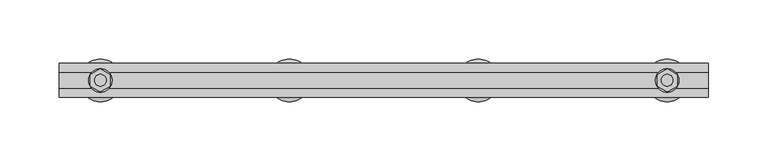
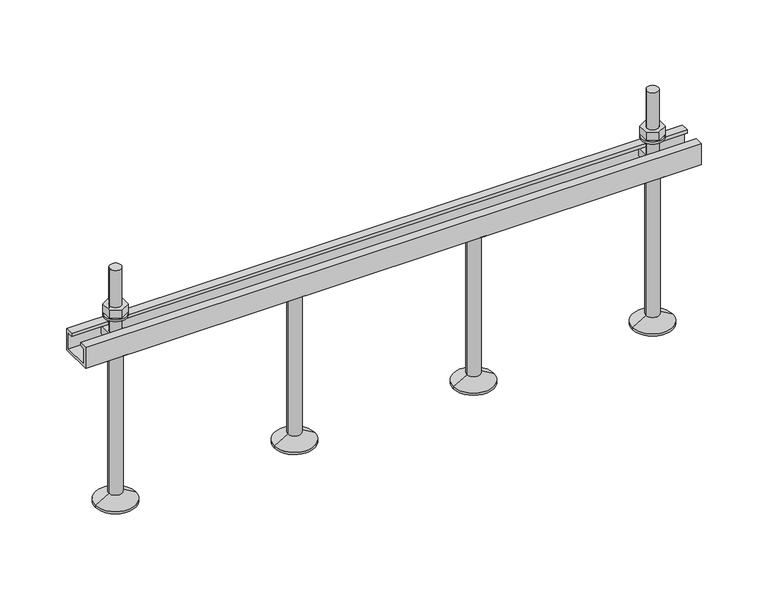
"""IFC4 building model written with IfcOpenShell, lengths in millimetres: fastener geometry, JXA(-PC) JORDAHL® toothed channels : JXA(-PC) L=550 mm."""

from ifc_helpers import new_model, si_unit, point, frame, frame_2d, origin, place, context, project, spatial, polyline, circle_curve, trimmed, segment, composite_curve, outline, extrude, source, transform, mapped, element, save
from ifc_brep_helpers import plane_surface, cylinder_surface, revolved_surface, advanced_brep


def fastener_5d54877c(model_context):
    return source(origin(), model_context, "Body", "SolidModel", [
        advanced_brep(
        [(355.0, 0.0, -20.0), (369.5, 0.0, -20.0), (340.5, 0.0, -20.0), (337.0, 0.0, -166.0), (373.0, 0.0, -166.0), (355.0, 0.0, -166.0), (337.0, 0.0, -164.0), (373.0, 0.0, -164.0), (349.0, 0.0, -157.0717968), (361.0, 0.0, -157.0717968), (349.0, 0.0, -22.5), (361.0, 0.0, -22.5)],
        [
            (0, 1),
            (1, 2, circle_curve(frame((355.0, 0.0, -20.0), z_axis=(0.0, 0.0, 1.0), x_axis=(1.0, 0.0, 0.0)), 14.5)),
            (2, 0),
            (2, 1, circle_curve(frame((355.0, 0.0, -20.0), z_axis=(0.0, 0.0, 1.0), x_axis=(1.0, 0.0, 0.0)), 14.5)),
            (3, 4, circle_curve(frame((355.0, 0.0, -166.0), z_axis=(0.0, 0.0, -1.0), x_axis=(1.0, 0.0, 0.0)), 18.0)),
            (4, 5),
            (5, 3),
            (4, 3, circle_curve(frame((355.0, 0.0, -166.0), z_axis=(0.0, 0.0, -1.0), x_axis=(1.0, 0.0, 0.0)), 18.0)),
            (6, 7, circle_curve(frame((355.0, 0.0, -164.0), z_axis=(0.0, 0.0, -1.0), x_axis=(1.0, 0.0, 0.0)), 18.0)),
            (7, 4),
            (3, 6),
            (7, 6, circle_curve(frame((355.0, 0.0, -164.0), z_axis=(0.0, 0.0, -1.0), x_axis=(1.0, 0.0, 0.0)), 18.0)),
            (8, 9, circle_curve(frame((355.0, 0.0, -157.0717968), z_axis=(0.0, 0.0, -1.0), x_axis=(1.0, 0.0, 0.0)), 6.0)),
            (9, 7),
            (6, 8),
            (9, 8, circle_curve(frame((355.0, 0.0, -157.0717968), z_axis=(0.0, 0.0, -1.0), x_axis=(1.0, 0.0, 0.0)), 6.0)),
            (10, 11, circle_curve(frame((355.0, 0.0, -22.5), z_axis=(0.0, 0.0, -1.0), x_axis=(1.0, 0.0, 0.0)), 6.0)),
            (11, 9),
            (8, 10),
            (11, 10, circle_curve(frame((355.0, 0.0, -22.5), z_axis=(0.0, 0.0, -1.0), x_axis=(1.0, 0.0, 0.0)), 6.0)),
            (1, 11),
            (10, 2),
        ],
        [
            plane_surface(frame((355.0, 0.0, -20.0), z_axis=(0.0, 0.0, 1.0), x_axis=(1.0, 0.0, 0.0))),
            plane_surface(frame((355.0, 0.0, -166.0), z_axis=(0.0, 0.0, -1.0), x_axis=(1.0, 0.0, 0.0))),
            cylinder_surface(frame((355.0, 0.0, 2214.3150031), z_axis=(0.0, 0.0, 1.0), x_axis=(1.0, 0.0, 0.0)), 18.0),
            revolved_surface(polyline([(373.0, 0.0, -164.0), (361.0, 0.0, -157.0717968)]), (355.0, 0.0, 2214.3150031), (0.0, 0.0, 1.0)),
            cylinder_surface(frame((355.0, 0.0, 2214.3150031), z_axis=(0.0, 0.0, 1.0), x_axis=(1.0, 0.0, 0.0)), 6.0),
            revolved_surface(polyline([(361.0, 0.0, -22.5), (369.5, 0.0, -20.0)]), (355.0, 0.0, 2214.3150031), (0.0, 0.0, 1.0)),
        ],
        [
            (0, [[1, 2, 3]]),
            (0, [[-3, 4, -1]]),
            (1, [[5, 6, 7]]),
            (1, [[8, -7, -6]]),
            (2, [[9, 10, -5, 11]]),
            (2, [[12, -11, -8, -10]]),
            (3, [[13, 14, -9, 15]]),
            (3, [[16, -15, -12, -14]]),
            (4, [[17, 18, -13, 19]]),
            (4, [[20, -19, -16, -18]]),
            (5, [[-2, 21, -17, 22]]),
            (5, [[-4, -22, -20, -21]]),
        ],
    ),
        advanced_brep(
        [(195.0, 0.0, -20.0), (209.5, 0.0, -20.0), (180.5, 0.0, -20.0), (177.0, 0.0, -166.0), (213.0, 0.0, -166.0), (195.0, 0.0, -166.0), (177.0, 0.0, -164.0), (213.0, 0.0, -164.0), (189.0, 0.0, -157.0717968), (201.0, 0.0, -157.0717968), (189.0, 0.0, -22.5), (201.0, 0.0, -22.5)],
        [
            (0, 1),
            (1, 2, circle_curve(frame((195.0, 0.0, -20.0), z_axis=(0.0, 0.0, 1.0), x_axis=(1.0, 0.0, 0.0)), 14.5)),
            (2, 0),
            (2, 1, circle_curve(frame((195.0, 0.0, -20.0), z_axis=(0.0, 0.0, 1.0), x_axis=(1.0, 0.0, 0.0)), 14.5)),
            (3, 4, circle_curve(frame((195.0, 0.0, -166.0), z_axis=(0.0, 0.0, -1.0), x_axis=(1.0, 0.0, 0.0)), 18.0)),
            (4, 5),
            (5, 3),
            (4, 3, circle_curve(frame((195.0, 0.0, -166.0), z_axis=(0.0, 0.0, -1.0), x_axis=(1.0, 0.0, 0.0)), 18.0)),
            (6, 7, circle_curve(frame((195.0, 0.0, -164.0), z_axis=(0.0, 0.0, -1.0), x_axis=(1.0, 0.0, 0.0)), 18.0)),
            (7, 4),
            (3, 6),
            (7, 6, circle_curve(frame((195.0, 0.0, -164.0), z_axis=(0.0, 0.0, -1.0), x_axis=(1.0, 0.0, 0.0)), 18.0)),
            (8, 9, circle_curve(frame((195.0, 0.0, -157.0717968), z_axis=(0.0, 0.0, -1.0), x_axis=(1.0, 0.0, 0.0)), 6.0)),
            (9, 7),
            (6, 8),
            (9, 8, circle_curve(frame((195.0, 0.0, -157.0717968), z_axis=(0.0, 0.0, -1.0), x_axis=(1.0, 0.0, 0.0)), 6.0)),
            (10, 11, circle_curve(frame((195.0, 0.0, -22.5), z_axis=(0.0, 0.0, -1.0), x_axis=(1.0, 0.0, 0.0)), 6.0)),
            (11, 9),
            (8, 10),
            (11, 10, circle_curve(frame((195.0, 0.0, -22.5), z_axis=(0.0, 0.0, -1.0), x_axis=(1.0, 0.0, 0.0)), 6.0)),
            (1, 11),
            (10, 2),
        ],
        [
            plane_surface(frame((195.0, 0.0, -20.0), z_axis=(0.0, 0.0, 1.0), x_axis=(1.0, 0.0, 0.0))),
            plane_surface(frame((195.0, 0.0, -166.0), z_axis=(0.0, 0.0, -1.0), x_axis=(1.0, 0.0, 0.0))),
            cylinder_surface(frame((195.0, 0.0, 2214.3150031), z_axis=(0.0, 0.0, 1.0), x_axis=(1.0, 0.0, 0.0)), 18.0),
            revolved_surface(polyline([(213.0, 0.0, -164.0), (201.0, 0.0, -157.0717968)]), (195.0, 0.0, 2214.3150031), (0.0, 0.0, 1.0)),
            cylinder_surface(frame((195.0, 0.0, 2214.3150031), z_axis=(0.0, 0.0, 1.0), x_axis=(1.0, 0.0, 0.0)), 6.0),
            revolved_surface(polyline([(201.0, 0.0, -22.5), (209.5, 0.0, -20.0)]), (195.0, 0.0, 2214.3150031), (0.0, 0.0, 1.0)),
        ],
        [
            (0, [[1, 2, 3]]),
            (0, [[-3, 4, -1]]),
            (1, [[5, 6, 7]]),
            (1, [[8, -7, -6]]),
            (2, [[9, 10, -5, 11]]),
            (2, [[12, -11, -8, -10]]),
            (3, [[13, 14, -9, 15]]),
            (3, [[16, -15, -12, -14]]),
            (4, [[17, 18, -13, 19]]),
            (4, [[20, -19, -16, -18]]),
            (5, [[-2, 21, -17, 22]]),
            (5, [[-4, -22, -20, -21]]),
        ],
    ),
        extrude(outline(composite_curve([segment(trimmed(circle_curve(frame_2d((515.0, 0.0)), 10.0), [point((505.0, 0.0))], [point((525.0, 0.0))], False, "CARTESIAN"), True, "CONTINUOUS"), segment(trimmed(circle_curve(frame_2d((515.0, 0.0)), 10.0), [point((525.0, 0.0))], [point((505.0, 0.0))], False, "CARTESIAN"), True, "CONTINUOUS")], self_intersect=False), holes=[composite_curve([segment(trimmed(circle_curve(frame_2d((515.0, 0.0)), 5.5), [point((509.5, 0.0))], [point((520.5, 0.0))], True, "CARTESIAN"), True, "CONTINUOUS"), segment(trimmed(circle_curve(frame_2d((515.0, 0.0)), 5.5), [point((520.5, 0.0))], [point((509.5, 0.0))], True, "CARTESIAN"), True, "CONTINUOUS")], self_intersect=False)]), frame((0.0, 0.0, 10.0), z_axis=(0.0, 0.0, 1.0), x_axis=(1.0, 0.0, 0.0)), (0.0, 0.0, 1.0), 2.0),
        extrude(outline(polyline([(515.0, 9.8149546), (523.5, 4.9074773), (523.5, -4.9074773), (515.0, -9.8149546), (506.5, -4.9074773), (506.5, 4.9074773), (515.0, 9.8149546)]), holes=[composite_curve([segment(trimmed(circle_curve(frame_2d((515.0, 0.0)), 5.0), [point((510.0, 0.0))], [point((520.0, 0.0))], True, "CARTESIAN"), True, "CONTINUOUS"), segment(trimmed(circle_curve(frame_2d((515.0, 0.0)), 5.0), [point((520.0, 0.0))], [point((510.0, 0.0))], True, "CARTESIAN"), True, "CONTINUOUS")], self_intersect=False)]), frame((0.0, 0.0, 12.0), z_axis=(0.0, 0.0, 1.0), x_axis=(1.0, 0.0, 0.0)), (0.0, 0.0, 1.0), 8.0),
        advanced_brep(
        [(521.5, 10.5, -5.0), (521.5, -10.5, -5.0), (521.5, -10.5, -12.0), (521.5, 10.5, -12.0), (508.5, 10.5, -5.0), (508.5, 10.5, -12.0), (508.5, -10.5, -12.0), (508.5, -10.5, -5.0), (520.0, 0.0, -5.0), (510.0, 0.0, -5.0), (510.0, 0.0, 55.0), (520.0, 0.0, 55.0)],
        [
            (0, 1),
            (1, 2),
            (2, 3),
            (3, 0),
            (4, 5),
            (5, 6),
            (6, 7),
            (7, 4),
            (0, 4),
            (7, 1),
            (8, 9, circle_curve(frame((515.0, 0.0, -5.0), z_axis=(0.0, 0.0, -1.0), x_axis=(1.0, 0.0, 0.0)), 5.0)),
            (9, 8, circle_curve(frame((515.0, 0.0, -5.0), z_axis=(0.0, 0.0, -1.0), x_axis=(1.0, 0.0, 0.0)), 5.0)),
            (6, 2),
            (5, 3),
            (10, 11, circle_curve(frame((515.0, 0.0, 55.0), z_axis=(0.0, 0.0, 1.0), x_axis=(1.0, 0.0, 0.0)), 5.0)),
            (11, 10, circle_curve(frame((515.0, 0.0, 55.0), z_axis=(0.0, 0.0, 1.0), x_axis=(1.0, 0.0, 0.0)), 5.0)),
            (10, 9),
            (8, 11),
        ],
        [
            plane_surface(frame((521.5, -10.5, -5.0), z_axis=(1.0, 0.0, 0.0), x_axis=(0.0, -1.0, 0.0))),
            plane_surface(frame((508.5, -10.5, -5.0), z_axis=(-1.0, 0.0, 0.0), x_axis=(0.0, 1.0, 0.0))),
            plane_surface(frame((521.5, 10.5, -5.0), z_axis=(0.0, 0.0, 1.0), x_axis=(-1.0, 0.0, 0.0))),
            plane_surface(frame((521.5, -10.5, -5.0), z_axis=(0.0, -1.0, 0.0), x_axis=(-1.0, 0.0, 0.0))),
            plane_surface(frame((521.5, -10.5, -12.0), z_axis=(0.0, 0.0, -1.0), x_axis=(-1.0, 0.0, 0.0))),
            plane_surface(frame((521.5, 10.5, -12.0), z_axis=(0.0, 1.0, 0.0), x_axis=(-1.0, 0.0, 0.0))),
            plane_surface(frame((520.0, 0.0, 55.0), z_axis=(0.0, 0.0, 1.0), x_axis=(0.0, 1.0, 0.0))),
            cylinder_surface(frame((515.0, 0.0, -5.0), z_axis=(0.0, 0.0, 1.0), x_axis=(1.0, 0.0, 0.0)), 5.0),
        ],
        [
            (0, [[1, 2, 3, 4]]),
            (1, [[5, 6, 7, 8]]),
            (2, [[-1, 9, -8, 10], [11, 12]]),
            (3, [[-2, -10, -7, 13]]),
            (4, [[-3, -13, -6, 14]]),
            (5, [[-4, -14, -5, -9]]),
            (6, [[15, 16]]),
            (7, [[-15, 17, -11, 18]]),
            (7, [[-16, -18, -12, -17]]),
        ],
    ),
        extrude(outline(composite_curve([segment(trimmed(circle_curve(frame_2d((35.0, 0.0)), 10.0), [point((25.0, 0.0))], [point((45.0, 0.0))], False, "CARTESIAN"), True, "CONTINUOUS"), segment(trimmed(circle_curve(frame_2d((35.0, 0.0)), 10.0), [point((45.0, 0.0))], [point((25.0, 0.0))], False, "CARTESIAN"), True, "CONTINUOUS")], self_intersect=False), holes=[composite_curve([segment(trimmed(circle_curve(frame_2d((35.0, 0.0)), 5.5), [point((29.5, 0.0))], [point((40.5, 0.0))], True, "CARTESIAN"), True, "CONTINUOUS"), segment(trimmed(circle_curve(frame_2d((35.0, 0.0)), 5.5), [point((40.5, 0.0))], [point((29.5, 0.0))], True, "CARTESIAN"), True, "CONTINUOUS")], self_intersect=False)]), frame((0.0, 0.0, 10.0), z_axis=(0.0, 0.0, 1.0), x_axis=(1.0, 0.0, 0.0)), (0.0, 0.0, 1.0), 2.0),
        extrude(outline(polyline([(35.0, 9.8149546), (43.5, 4.9074773), (43.5, -4.9074773), (35.0, -9.8149546), (26.5, -4.9074773), (26.5, 4.9074773), (35.0, 9.8149546)]), holes=[composite_curve([segment(trimmed(circle_curve(frame_2d((35.0, 0.0)), 5.0), [point((30.0, 0.0))], [point((40.0, 0.0))], True, "CARTESIAN"), True, "CONTINUOUS"), segment(trimmed(circle_curve(frame_2d((35.0, 0.0)), 5.0), [point((40.0, 0.0))], [point((30.0, 0.0))], True, "CARTESIAN"), True, "CONTINUOUS")], self_intersect=False)]), frame((0.0, 0.0, 12.0), z_axis=(0.0, 0.0, 1.0), x_axis=(1.0, 0.0, 0.0)), (0.0, 0.0, 1.0), 8.0),
        advanced_brep(
        [(41.5, 10.5, -5.0), (41.5, -10.5, -5.0), (41.5, -10.5, -12.0), (41.5, 10.5, -12.0), (28.5, 10.5, -5.0), (28.5, 10.5, -12.0), (28.5, -10.5, -12.0), (28.5, -10.5, -5.0), (40.0, 0.0, -5.0), (30.0, 0.0, -5.0), (30.0, 0.0, 55.0), (40.0, 0.0, 55.0)],
        [
            (0, 1),
            (1, 2),
            (2, 3),
            (3, 0),
            (4, 5),
            (5, 6),
            (6, 7),
            (7, 4),
            (0, 4),
            (7, 1),
            (8, 9, circle_curve(frame((35.0, 0.0, -5.0), z_axis=(0.0, 0.0, -1.0), x_axis=(1.0, 0.0, 0.0)), 5.0)),
            (9, 8, circle_curve(frame((35.0, 0.0, -5.0), z_axis=(0.0, 0.0, -1.0), x_axis=(1.0, 0.0, 0.0)), 5.0)),
            (6, 2),
            (5, 3),
            (10, 11, circle_curve(frame((35.0, 0.0, 55.0), z_axis=(0.0, 0.0, 1.0), x_axis=(1.0, 0.0, 0.0)), 5.0)),
            (11, 10, circle_curve(frame((35.0, 0.0, 55.0), z_axis=(0.0, 0.0, 1.0), x_axis=(1.0, 0.0, 0.0)), 5.0)),
            (10, 9),
            (8, 11),
        ],
        [
            plane_surface(frame((41.5, -10.5, -5.0), z_axis=(1.0, 0.0, 0.0), x_axis=(0.0, -1.0, 0.0))),
            plane_surface(frame((28.5, -10.5, -5.0), z_axis=(-1.0, 0.0, 0.0), x_axis=(0.0, 1.0, 0.0))),
            plane_surface(frame((41.5, 10.5, -5.0), z_axis=(0.0, 0.0, 1.0), x_axis=(-1.0, 0.0, 0.0))),
            plane_surface(frame((41.5, -10.5, -5.0), z_axis=(0.0, -1.0, 0.0), x_axis=(-1.0, 0.0, 0.0))),
            plane_surface(frame((41.5, -10.5, -12.0), z_axis=(0.0, 0.0, -1.0), x_axis=(-1.0, 0.0, 0.0))),
            plane_surface(frame((41.5, 10.5, -12.0), z_axis=(0.0, 1.0, 0.0), x_axis=(-1.0, 0.0, 0.0))),
            plane_surface(frame((40.0, 0.0, 55.0), z_axis=(0.0, 0.0, 1.0), x_axis=(0.0, 1.0, 0.0))),
            cylinder_surface(frame((35.0, 0.0, -5.0), z_axis=(0.0, 0.0, 1.0), x_axis=(1.0, 0.0, 0.0)), 5.0),
        ],
        [
            (0, [[1, 2, 3, 4]]),
            (1, [[5, 6, 7, 8]]),
            (2, [[-1, 9, -8, 10], [11, 12]]),
            (3, [[-2, -10, -7, 13]]),
            (4, [[-3, -13, -6, 14]]),
            (5, [[-4, -14, -5, -9]]),
            (6, [[15, 16]]),
            (7, [[-15, 17, -11, 18]]),
            (7, [[-16, -18, -12, -17]]),
        ],
    ),
        advanced_brep(
        [(515.0, 0.0, -20.0), (529.5, 0.0, -20.0), (500.5, 0.0, -20.0), (497.0, 0.0, -166.0), (533.0, 0.0, -166.0), (515.0, 0.0, -166.0), (497.0, 0.0, -164.0), (533.0, 0.0, -164.0), (509.0, 0.0, -157.0717968), (521.0, 0.0, -157.0717968), (509.0, 0.0, -22.5), (521.0, 0.0, -22.5)],
        [
            (0, 1),
            (1, 2, circle_curve(frame((515.0, 0.0, -20.0), z_axis=(0.0, 0.0, 1.0), x_axis=(1.0, 0.0, 0.0)), 14.5)),
            (2, 0),
            (2, 1, circle_curve(frame((515.0, 0.0, -20.0), z_axis=(0.0, 0.0, 1.0), x_axis=(1.0, 0.0, 0.0)), 14.5)),
            (3, 4, circle_curve(frame((515.0, 0.0, -166.0), z_axis=(0.0, 0.0, -1.0), x_axis=(1.0, 0.0, 0.0)), 18.0)),
            (4, 5),
            (5, 3),
            (4, 3, circle_curve(frame((515.0, 0.0, -166.0), z_axis=(0.0, 0.0, -1.0), x_axis=(1.0, 0.0, 0.0)), 18.0)),
            (6, 7, circle_curve(frame((515.0, 0.0, -164.0), z_axis=(0.0, 0.0, -1.0), x_axis=(1.0, 0.0, 0.0)), 18.0)),
            (7, 4),
            (3, 6),
            (7, 6, circle_curve(frame((515.0, 0.0, -164.0), z_axis=(0.0, 0.0, -1.0), x_axis=(1.0, 0.0, 0.0)), 18.0)),
            (8, 9, circle_curve(frame((515.0, 0.0, -157.0717968), z_axis=(0.0, 0.0, -1.0), x_axis=(1.0, 0.0, 0.0)), 6.0)),
            (9, 7),
            (6, 8),
            (9, 8, circle_curve(frame((515.0, 0.0, -157.0717968), z_axis=(0.0, 0.0, -1.0), x_axis=(1.0, 0.0, 0.0)), 6.0)),
            (10, 11, circle_curve(frame((515.0, 0.0, -22.5), z_axis=(0.0, 0.0, -1.0), x_axis=(1.0, 0.0, 0.0)), 6.0)),
            (11, 9),
            (8, 10),
            (11, 10, circle_curve(frame((515.0, 0.0, -22.5), z_axis=(0.0, 0.0, -1.0), x_axis=(1.0, 0.0, 0.0)), 6.0)),
            (1, 11),
            (10, 2),
        ],
        [
            plane_surface(frame((515.0, 0.0, -20.0), z_axis=(0.0, 0.0, 1.0), x_axis=(1.0, 0.0, 0.0))),
            plane_surface(frame((515.0, 0.0, -166.0), z_axis=(0.0, 0.0, -1.0), x_axis=(1.0, 0.0, 0.0))),
            cylinder_surface(frame((515.0, 0.0, 2214.3150031), z_axis=(0.0, 0.0, 1.0), x_axis=(1.0, 0.0, 0.0)), 18.0),
            revolved_surface(polyline([(533.0, 0.0, -164.0), (521.0, 0.0, -157.0717968)]), (515.0, 0.0, 2214.3150031), (0.0, 0.0, 1.0)),
            cylinder_surface(frame((515.0, 0.0, 2214.3150031), z_axis=(0.0, 0.0, 1.0), x_axis=(1.0, 0.0, 0.0)), 6.0),
            revolved_surface(polyline([(521.0, 0.0, -22.5), (529.5, 0.0, -20.0)]), (515.0, 0.0, 2214.3150031), (0.0, 0.0, 1.0)),
        ],
        [
            (0, [[1, 2, 3]]),
            (0, [[-3, 4, -1]]),
            (1, [[5, 6, 7]]),
            (1, [[8, -7, -6]]),
            (2, [[9, 10, -5, 11]]),
            (2, [[12, -11, -8, -10]]),
            (3, [[13, 14, -9, 15]]),
            (3, [[16, -15, -12, -14]]),
            (4, [[17, 18, -13, 19]]),
            (4, [[20, -19, -16, -18]]),
            (5, [[-2, 21, -17, 22]]),
            (5, [[-4, -22, -20, -21]]),
        ],
    ),
        advanced_brep(
        [(35.0, 0.0, -20.0), (49.5, 0.0, -20.0), (20.5, 0.0, -20.0), (17.0, 0.0, -166.0), (53.0, 0.0, -166.0), (35.0, 0.0, -166.0), (17.0, 0.0, -164.0), (53.0, 0.0, -164.0), (29.0, 0.0, -157.0717968), (41.0, 0.0, -157.0717968), (29.0, 0.0, -22.5), (41.0, 0.0, -22.5)],
        [
            (0, 1),
            (1, 2, circle_curve(frame((35.0, 0.0, -20.0), z_axis=(0.0, 0.0, 1.0), x_axis=(1.0, 0.0, 0.0)), 14.5)),
            (2, 0),
            (2, 1, circle_curve(frame((35.0, 0.0, -20.0), z_axis=(0.0, 0.0, 1.0), x_axis=(1.0, 0.0, 0.0)), 14.5)),
            (3, 4, circle_curve(frame((35.0, 0.0, -166.0), z_axis=(0.0, 0.0, -1.0), x_axis=(1.0, 0.0, 0.0)), 18.0)),
            (4, 5),
            (5, 3),
            (4, 3, circle_curve(frame((35.0, 0.0, -166.0), z_axis=(0.0, 0.0, -1.0), x_axis=(1.0, 0.0, 0.0)), 18.0)),
            (6, 7, circle_curve(frame((35.0, 0.0, -164.0), z_axis=(0.0, 0.0, -1.0), x_axis=(1.0, 0.0, 0.0)), 18.0)),
            (7, 4),
            (3, 6),
            (7, 6, circle_curve(frame((35.0, 0.0, -164.0), z_axis=(0.0, 0.0, -1.0), x_axis=(1.0, 0.0, 0.0)), 18.0)),
            (8, 9, circle_curve(frame((35.0, 0.0, -157.0717968), z_axis=(0.0, 0.0, -1.0), x_axis=(1.0, 0.0, 0.0)), 6.0)),
            (9, 7),
            (6, 8),
            (9, 8, circle_curve(frame((35.0, 0.0, -157.0717968), z_axis=(0.0, 0.0, -1.0), x_axis=(1.0, 0.0, 0.0)), 6.0)),
            (10, 11, circle_curve(frame((35.0, 0.0, -22.5), z_axis=(0.0, 0.0, -1.0), x_axis=(1.0, 0.0, 0.0)), 6.0)),
            (11, 9),
            (8, 10),
            (11, 10, circle_curve(frame((35.0, 0.0, -22.5), z_axis=(0.0, 0.0, -1.0), x_axis=(1.0, 0.0, 0.0)), 6.0)),
            (1, 11),
            (10, 2),
        ],
        [
            plane_surface(frame((35.0, 0.0, -20.0), z_axis=(0.0, 0.0, 1.0), x_axis=(1.0, 0.0, 0.0))),
            plane_surface(frame((35.0, 0.0, -166.0), z_axis=(0.0, 0.0, -1.0), x_axis=(1.0, 0.0, 0.0))),
            cylinder_surface(frame((35.0, 0.0, 2214.3150031), z_axis=(0.0, 0.0, 1.0), x_axis=(1.0, 0.0, 0.0)), 18.0),
            revolved_surface(polyline([(53.0, 0.0, -164.0), (41.0, 0.0, -157.0717968)]), (35.0, 0.0, 2214.3150031), (0.0, 0.0, 1.0)),
            cylinder_surface(frame((35.0, 0.0, 2214.3150031), z_axis=(0.0, 0.0, 1.0), x_axis=(1.0, 0.0, 0.0)), 6.0),
            revolved_surface(polyline([(41.0, 0.0, -22.5), (49.5, 0.0, -20.0)]), (35.0, 0.0, 2214.3150031), (0.0, 0.0, 1.0)),
        ],
        [
            (0, [[1, 2, 3]]),
            (0, [[-3, 4, -1]]),
            (1, [[5, 6, 7]]),
            (1, [[8, -7, -6]]),
            (2, [[9, 10, -5, 11]]),
            (2, [[12, -11, -8, -10]]),
            (3, [[13, 14, -9, 15]]),
            (3, [[16, -15, -12, -14]]),
            (4, [[17, 18, -13, 19]]),
            (4, [[20, -19, -16, -18]]),
            (5, [[-2, 21, -17, 22]]),
            (5, [[-4, -22, -20, -21]]),
        ],
    ),
        extrude(outline(polyline([(14.5, 0.0), (14.5, -20.0), (-14.5, -20.0), (-14.5, 0.0), (-7.0, 0.0), (-7.0, -3.0), (-12.0, -3.0), (-12.0, -17.5), (12.0, -17.5), (12.0, -3.0), (7.0, -3.0), (7.0, 0.0), (14.5, 0.0)])), frame((0.0, 0.0, 0.0), z_axis=(1.0, 0.0, 0.0), x_axis=(0.0, 1.0, 0.0)), (0.0, 0.0, 1.0), 550.0),
    ])


if __name__ == "__main__":
    model = new_model("IFC4")
    model_context = context("Model", 3, world=origin())
    ifc_project = project(units=[si_unit("LENGTHUNIT", "METRE", prefix="MILLI")], contexts=[model_context])
    site = spatial("IfcSite", under=ifc_project)
    building = spatial("IfcBuilding", under=site)
    placement = place(None, origin())
    fastener_shape = fastener_5d54877c(model_context)
    element("IfcFastener", 1, ObjectType="JXA(-PC) JORDAHL® toothed channels : JXA(-PC) L=550 mm", at=placement, inside=building, context=model_context, shape_type="MappedRepresentation", body=[
        mapped(fastener_shape, transform((0.0, 0.0, 0.0), x_axis=(1.0, 0.0, 0.0), y_axis=(0.0, 1.0, 0.0), z_axis=(0.0, 0.0, 1.0))),
    ])
    save(model, "model.ifc")
